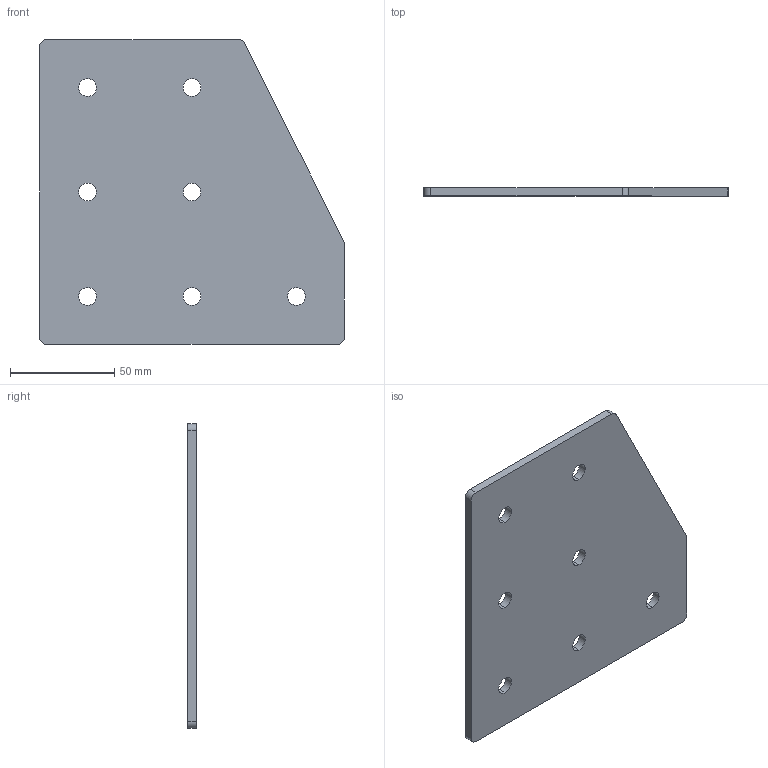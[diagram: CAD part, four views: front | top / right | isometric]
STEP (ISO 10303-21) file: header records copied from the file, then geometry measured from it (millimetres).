
FILE_DESCRIPTION (( 'STEP AP203' ), '1' );
FILE_NAME ('ﾃ-7-ﾓ-50.STEP', '2017-03-22T09:37:16', ( 'RosInstal-MKM' ), ( '' ), 'SwSTEP 2.0', 'SolidWorks 2014', '' );
FILE_SCHEMA (( 'CONFIG_CONTROL_DESIGN' ));
Length unit declared in the file: millimetre
Products named in the file (1): ﾃ-7-ﾓ-50
Bounding box: 146 x 4 x 146 mm (x, y, z)
Volume: 74173.6 mm3; surface area: 40002.6 mm2
Topology: 1 solids, 1 shells, 26 faces, 72 edges, 48 vertices
Faces by surface type: cylinder 19, plane 7
Entity records: 959 total; most frequent: DIRECTION 164, CARTESIAN_POINT 147, ORIENTED_EDGE 144, EDGE_CURVE 72, AXIS2_PLACEMENT_3D 65, VERTEX_POINT 48, EDGE_LOOP 40, CIRCLE 38
